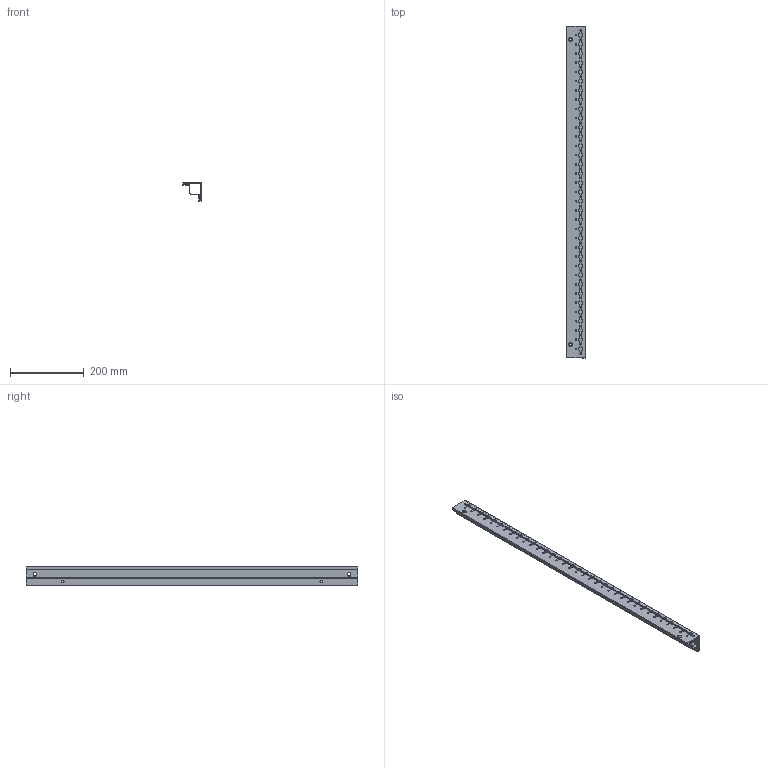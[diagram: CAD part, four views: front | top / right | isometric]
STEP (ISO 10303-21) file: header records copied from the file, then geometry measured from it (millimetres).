
FILE_DESCRIPTION(('Open CASCADE Model'),'2;1');
FILE_NAME('Open CASCADE Shape Model','2025-01-27T17:00:44',('Author'),( 'Open CASCADE'),'Open CASCADE STEP processor 7.8','Open CASCADE 7.8' ,'Unknown');
FILE_SCHEMA(('AUTOMOTIVE_DESIGN { 1 0 10303 214 1 1 1 1 }'));
Length unit declared in the file: millimetre
Products named in the file (2): Compound1; Solid1
Assembly tree (1 placements, depth 2):
  Compound1
    Solid1
Bounding box: 49.7 x 899 x 49.7 mm (x, y, z)
Volume: 218185.7 mm3; surface area: 333558.3 mm2
Topology: 1 solids, 1 shells, 1421 faces, 4206 edges, 2804 vertices
Faces by surface type: cylinder 854, plane 567
Full cylindrical faces by diameter (mm): 4.25 x142, 7 x4, 10 x4, 11 x4
Entity records: 49092 total; most frequent: DIRECTION 8760, CARTESIAN_POINT 8433, ORIENTED_EDGE 8412, EDGE_CURVE 4206, AXIS2_PLACEMENT_3D 3131, VERTEX_POINT 2804, LINE 2498, VECTOR 2498
